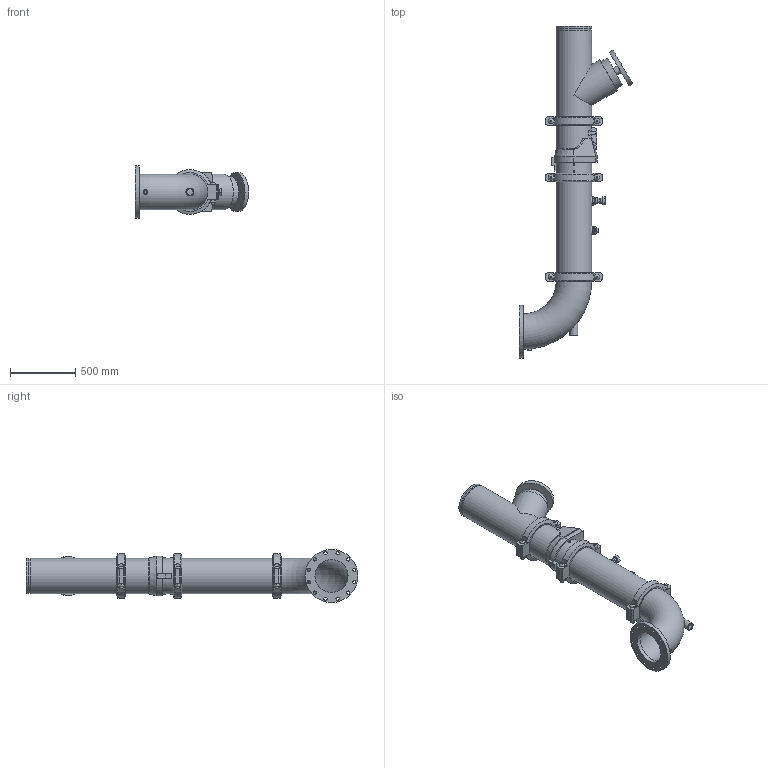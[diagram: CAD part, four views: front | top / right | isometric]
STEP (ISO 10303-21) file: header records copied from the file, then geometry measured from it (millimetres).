
FILE_DESCRIPTION(/* description */ ('VIC DVI PUMP DROP HORZ S/383 (OGSxFLG) (S/924-1.25)','CAx-IF Rec.Pracs.---Representation and Presentation of Product Manufacturing Information (PMI)---4.0---2014-10-13'),/* implementation_level */ '2;1');
FILE_NAME(/* name */ 'C:\Users\Vjadhav\AppData\Roaming\Autodesk\ApplicationPlugins\Victaulic.Temp\A892\Victaulic_IPS_Horizontal DVI_CL 150_Series 383 (OGSxFLG)_924 (1.25)_10.0x10.0 (250x250).stp',/* time_stamp */ '2022-02-28T15:46:01+05:00',/* author */ ('kkamble'),/* organization */ ('Victaulic'),/* preprocessor_version */ 'ST-DEVELOPER v17.2',/* originating_system */ 'Autodesk Inventor 2019',/* authorisation */ '');
FILE_SCHEMA (('AP242_MANAGED_MODEL_BASED_3D_ENGINEERING_MIM_LF { 1 0 10303 442 1 1 4 }'));
Length unit declared in the file: inch
Products named in the file (8): 383-924 (1.25)-10.0x10.0; Pipe-10.0; 789-10.0; 779-10.0; 924-10.0x01.25; 923-10.0x0.75; 100F-10.0; 077-10.0
Assembly tree (9 placements, depth 2):
  383-924 (1.25)-10.0x10.0
    Pipe-10.0
    789-10.0
    779-10.0
    077-10.0  x3
    924-10.0x01.25
    923-10.0x0.75
    100F-10.0
Bounding box: 869.95 x 2551.11 x 406.4 mm (x, y, z)
Volume: 49788848.9 mm3; surface area: 5985336.3 mm2
Topology: 9 solids, 16 shells, 452 faces, 1111 edges, 760 vertices
Faces by surface type: plane 266, cylinder 152, cone 17, torus 9, bspline 8
Full cylindrical faces by diameter (mm): 13.716 x4, 20.93 x1, 21.336 x2, 25.4 x24, 26.67 x4, 27.432 x6, 34.29 x1, 38.608 x1, 42.164 x1, 45.974 x4, 48.26 x1, 48.514 x1, 55.626 x2, 60.96 x2, 76.2 x1, 237.49 x1, 254.508 x5, 264.16 x3, 268.275 x7, 273.05 x18, 299.974 x1, 406.4 x1
Entity records: 11317 total; most frequent: CARTESIAN_POINT 2362, DIRECTION 1832, ORIENTED_EDGE 1642, EDGE_CURVE 821, AXIS2_PLACEMENT_3D 706, VERTEX_POINT 564, EDGE_LOOP 425, LINE 420
